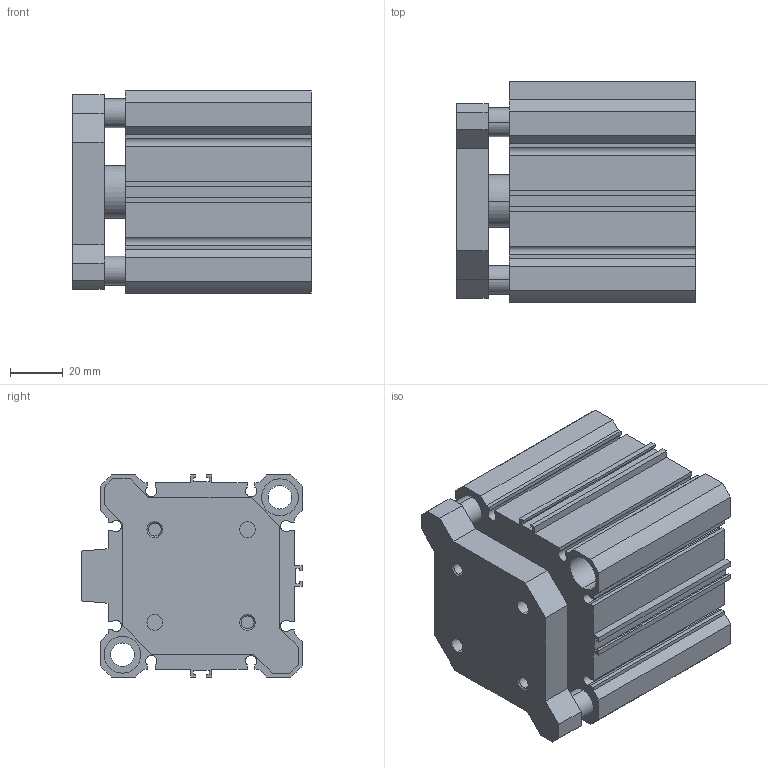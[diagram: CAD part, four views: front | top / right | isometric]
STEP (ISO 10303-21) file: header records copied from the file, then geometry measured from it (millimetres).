
FILE_DESCRIPTION (( 'STEP AP203' ), '1' );
FILE_NAME ('CCMG63-25.STEP', '2020-04-01T18:49:31', ( '' ), ( '' ), 'SwSTEP 2.0', 'SolidWorks 2019', '' );
FILE_SCHEMA (( 'CONFIG_CONTROL_DESIGN' ));
Length unit declared in the file: millimetre
Products named in the file (1): CCMG63-25
Bounding box: 91 x 84 x 77 mm (x, y, z)
Volume: 347815.3 mm3; surface area: 90012.7 mm2
Topology: 2 solids, 2 shells, 194 faces, 518 edges, 338 vertices
Faces by surface type: plane 114, cylinder 64, cone 16
Entity records: 6105 total; most frequent: CARTESIAN_POINT 1047, DIRECTION 1044, ORIENTED_EDGE 1028, EDGE_CURVE 514, VECTOR 374, LINE 374, VERTEX_POINT 338, AXIS2_PLACEMENT_3D 335
